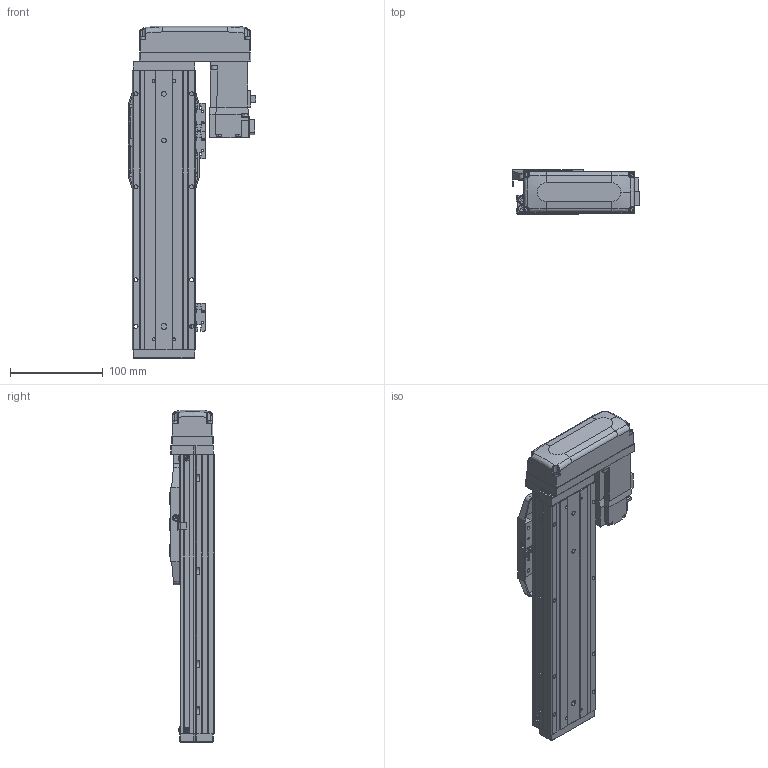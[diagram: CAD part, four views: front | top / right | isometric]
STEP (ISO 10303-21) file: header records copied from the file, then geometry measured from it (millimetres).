
FILE_DESCRIPTION (( 'STEP AP203' ), '1' );
FILE_NAME ('CTHA60-150-BL-M10-C4L.step', '2022-03-19T06:13:19', ( '微软用户' ), ( '微软中国' ), 'SwSTEP 2.0', 'SolidWorks 2020', '' );
FILE_SCHEMA (( 'CONFIG_CONTROL_DESIGN' ));
Length unit declared in the file: millimetre
Products named in the file (18): GBT 70.1-M3℅6; CTHA60-033; GB¨uT 70.2-M3¡Á6_M3¡Á6; GBT 70.3-M3℅6; CTHA60-150-BL-M10-C4L; EE_SX911P_R; CTHA60-016; CTHA60-017; HG-KR13（三菱）; CTHA60-021; CTHA60-002; CTHA60-001_300; GBT 70.1-M4×16; CTHA60-031; CTHA60-004; GBT77-2000 M3×3; CTHA60-006-1; CTHA60-005
Assembly tree (54 placements, depth 2):
  CTHA60-150-BL-M10-C4L
    CTHA60-001_300
    CTHA60-004
    CTHA60-005
    GB¨uT 70.2-M3¡Á6_M3¡Á6  x10
    EE_SX911P_R  x3
    CTHA60-017  x3
    CTHA60-021  x2
    GBT 70.1-M4×16  x10
    GBT77-2000 M3×3  x6
    GBT 70.1-M3℅6  x6
    GBT 70.3-M3℅6  x4
    CTHA60-016  x2
    HG-KR13（三菱）
    CTHA60-002
    CTHA60-031
    CTHA60-006-1
    CTHA60-033
Bounding box: 137.1 x 48 x 357 mm (x, y, z)
Volume: 765111.8 mm3; surface area: 249815.6 mm2
Topology: 56 solids, 56 shells, 2454 faces, 5869 edges, 3613 vertices
Faces by surface type: plane 1413, cylinder 559, cone 334, torus 92, bspline 32, sphere 24
Entity records: 43073 total; most frequent: CARTESIAN_POINT 8362, DIRECTION 6616, ORIENTED_EDGE 6546, EDGE_CURVE 3273, VECTOR 2316, LINE 2316, AXIS2_PLACEMENT_3D 2150, VERTEX_POINT 2072
